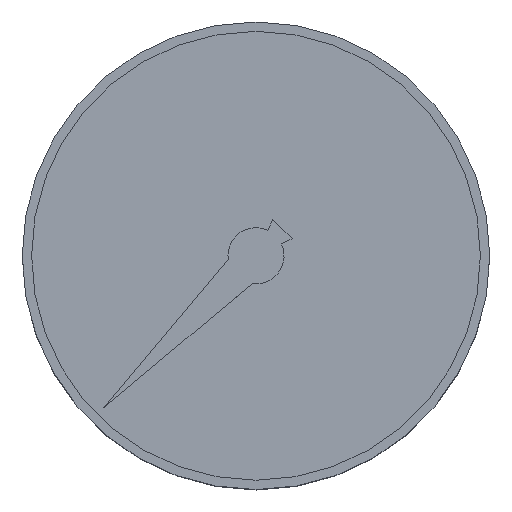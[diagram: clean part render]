
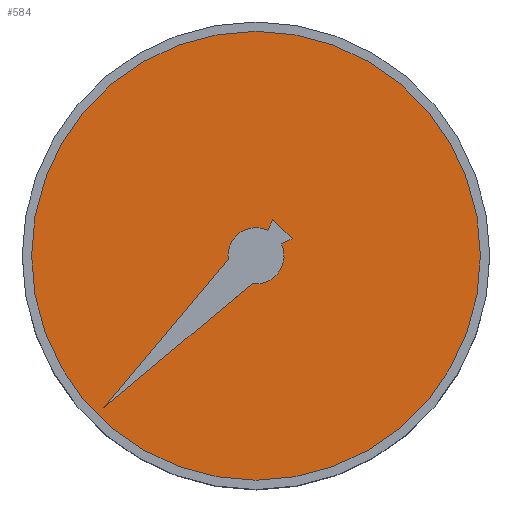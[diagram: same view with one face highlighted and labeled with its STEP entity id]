
A CAD part, top view. The second image highlights one B-rep face of the part: STEP entity #584.
In plain terms, the highlighted planar face has unit normal (0, 0, 1).
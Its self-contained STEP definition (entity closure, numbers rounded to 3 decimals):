
#147=CARTESIAN_POINT('',(0.,0.,45.5));
#148=DIRECTION('',(0.,0.,1.));
#149=DIRECTION('',(0.,1.,0.));
#150=AXIS2_PLACEMENT_3D('',#147,#148,#149);
#156=CARTESIAN_POINT('',(0.,0.,45.5));
#157=DIRECTION('',(0.,0.,-1.));
#158=DIRECTION('',(0.,1.,0.));
#159=AXIS2_PLACEMENT_3D('',#156,#157,#158);
#165=DIRECTION('',(-0.707,0.707,0.));
#166=VECTOR('',#165,2.912);
#167=CARTESIAN_POINT('',(3.858,1.799,45.5));
#168=LINE('',#167,#166);
#169=DIRECTION('',(-0.423,-0.906,0.));
#170=VECTOR('',#169,1.257);
#171=CARTESIAN_POINT('',(1.799,3.858,45.5));
#172=LINE('',#171,#170);
#173=CARTESIAN_POINT('',(0.,0.,45.5));
#174=DIRECTION('',(0.,0.,1.));
#175=DIRECTION('',(0.423,0.906,0.));
#176=AXIS2_PLACEMENT_3D('',#173,#174,#175);
#178=DIRECTION('',(-0.643,-0.766,0.));
#179=VECTOR('',#178,20.681);
#180=CARTESIAN_POINT('',(-2.97,-0.421,45.5));
#181=LINE('',#180,#179);
#182=DIRECTION('',(0.766,0.643,0.));
#183=VECTOR('',#182,20.681);
#184=CARTESIAN_POINT('',(-16.263,-16.263,45.5));
#185=LINE('',#184,#183);
#186=CARTESIAN_POINT('',(0.,0.,45.5));
#187=DIRECTION('',(0.,0.,1.));
#188=DIRECTION('',(-0.14,-0.99,0.));
#189=AXIS2_PLACEMENT_3D('',#186,#187,#188);
#191=DIRECTION('',(0.906,0.423,0.));
#192=VECTOR('',#191,1.257);
#193=CARTESIAN_POINT('',(2.719,1.268,45.5));
#194=LINE('',#193,#192);
#289=CARTESIAN_POINT('',(0.,24.,45.5));
#290=CARTESIAN_POINT('',(0.,-24.,45.5));
#291=VERTEX_POINT('',#289);
#292=VERTEX_POINT('',#290);
#311=CARTESIAN_POINT('',(3.858,1.799,45.5));
#312=CARTESIAN_POINT('',(1.799,3.858,45.5));
#313=VERTEX_POINT('',#311);
#314=VERTEX_POINT('',#312);
#315=CARTESIAN_POINT('',(1.268,2.719,45.5));
#316=VERTEX_POINT('',#315);
#317=CARTESIAN_POINT('',(-2.97,-0.421,45.5));
#318=VERTEX_POINT('',#317);
#319=CARTESIAN_POINT('',(-16.263,-16.263,45.5));
#320=VERTEX_POINT('',#319);
#321=CARTESIAN_POINT('',(-0.421,-2.97,45.5));
#322=VERTEX_POINT('',#321);
#323=CARTESIAN_POINT('',(2.719,1.268,45.5));
#324=VERTEX_POINT('',#323);
#559=CARTESIAN_POINT('',(0.,0.,45.5));
#560=DIRECTION('',(0.,0.,1.));
#561=DIRECTION('',(0.,1.,0.));
#562=AXIS2_PLACEMENT_3D('',#559,#560,#561);
#563=PLANE('',#562);
#564=ORIENTED_EDGE('',*,*,#553,.T.);
#565=ORIENTED_EDGE('',*,*,#539,.F.);
#566=EDGE_LOOP('',(#564,#565));
#567=FACE_OUTER_BOUND('',#566,.F.);
#569=ORIENTED_EDGE('',*,*,#568,.T.);
#571=ORIENTED_EDGE('',*,*,#570,.T.);
#573=ORIENTED_EDGE('',*,*,#572,.T.);
#575=ORIENTED_EDGE('',*,*,#574,.T.);
#577=ORIENTED_EDGE('',*,*,#576,.T.);
#579=ORIENTED_EDGE('',*,*,#578,.T.);
#581=ORIENTED_EDGE('',*,*,#580,.T.);
#582=EDGE_LOOP('',(#569,#571,#573,#575,#577,#579,#581));
#583=FACE_BOUND('',#582,.F.);
#151=CIRCLE('',#150,24.);
#160=CIRCLE('',#159,24.);
#177=CIRCLE('',#176,3.);
#190=CIRCLE('',#189,3.);
#539=EDGE_CURVE('',#291,#292,#151,.T.);
#553=EDGE_CURVE('',#291,#292,#160,.T.);
#568=EDGE_CURVE('',#313,#314,#168,.T.);
#570=EDGE_CURVE('',#314,#316,#172,.T.);
#572=EDGE_CURVE('',#316,#318,#177,.T.);
#574=EDGE_CURVE('',#318,#320,#181,.T.);
#576=EDGE_CURVE('',#320,#322,#185,.T.);
#578=EDGE_CURVE('',#322,#324,#190,.T.);
#580=EDGE_CURVE('',#324,#313,#194,.T.);
#584=ADVANCED_FACE('',(#567,#583),#563,.T.);
